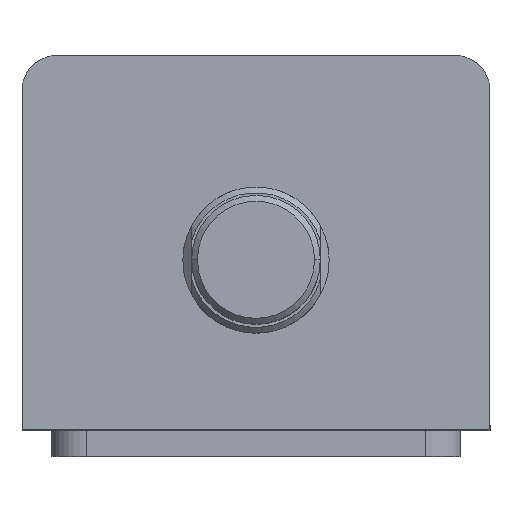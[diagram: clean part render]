
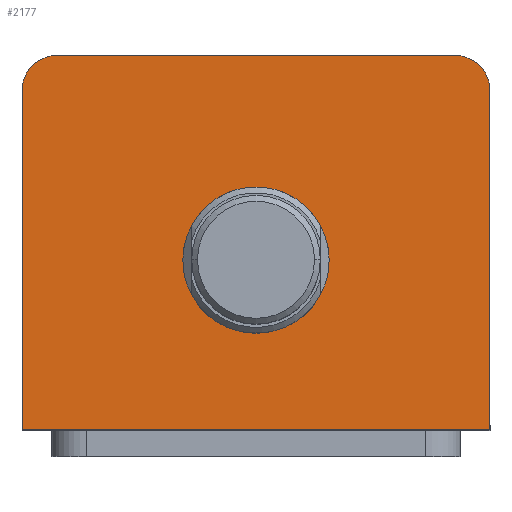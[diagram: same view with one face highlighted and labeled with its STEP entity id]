
A CAD part, top view. The second image highlights one B-rep face of the part: STEP entity #2177.
In plain terms, the highlighted planar face has unit normal (0, 0, 1).
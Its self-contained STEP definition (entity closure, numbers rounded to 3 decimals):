
#19 = DIRECTION ( 'NONE',  ( 1., 0., 0. ) ) ;
#23 = CARTESIAN_POINT ( 'NONE',  ( -40., -32., 110. ) ) ;
#788 = EDGE_LOOP ( 'NONE', ( #1703, #1702, #1701, #1700, #1699, #1698 ) ) ;
#809 = EDGE_LOOP ( 'NONE', ( #1705, #1704 ) ) ;
#1106 = EDGE_CURVE ( 'NONE', #1547, #1551, #1792, .T. ) ;
#1128 = EDGE_CURVE ( 'NONE', #1611, #1563, #1832, .T. ) ;
#1136 = EDGE_CURVE ( 'NONE', #1563, #1547, #1841, .T. ) ;
#1145 = EDGE_CURVE ( 'NONE', #1551, #1567, #1852, .T. ) ;
#1149 = EDGE_CURVE ( 'NONE', #1567, #1612, #1858, .T. ) ;
#1162 = EDGE_CURVE ( 'NONE', #1531, #1598, #1884, .T. ) ;
#1312 = CARTESIAN_POINT ( 'NONE',  ( 34., 26., 110. ) ) ;
#1351 = DIRECTION ( 'NONE',  ( 0., 1., 0. ) ) ;
#1352 = CARTESIAN_POINT ( 'NONE',  ( 40., 32., 110. ) ) ;
#1406 = DIRECTION ( 'NONE',  ( -1., 0., 0. ) ) ;
#1408 = CARTESIAN_POINT ( 'NONE',  ( -40., 32., 110. ) ) ;
#1531 = VERTEX_POINT ( 'NONE', #3309 ) ;
#1547 = VERTEX_POINT ( 'NONE', #3276 ) ;
#1551 = VERTEX_POINT ( 'NONE', #3269 ) ;
#1563 = VERTEX_POINT ( 'NONE', #3234 ) ;
#1567 = VERTEX_POINT ( 'NONE', #3219 ) ;
#1598 = VERTEX_POINT ( 'NONE', #3140 ) ;
#1611 = VERTEX_POINT ( 'NONE', #3106 ) ;
#1612 = VERTEX_POINT ( 'NONE', #3101 ) ;
#1698 = ORIENTED_EDGE ( 'NONE', *, *, #1136, .T. ) ;
#1699 = ORIENTED_EDGE ( 'NONE', *, *, #1128, .T. ) ;
#1700 = ORIENTED_EDGE ( 'NONE', *, *, #3041, .T. ) ;
#1701 = ORIENTED_EDGE ( 'NONE', *, *, #1149, .T. ) ;
#1702 = ORIENTED_EDGE ( 'NONE', *, *, #1145, .T. ) ;
#1703 = ORIENTED_EDGE ( 'NONE', *, *, #1106, .T. ) ;
#1704 = ORIENTED_EDGE ( 'NONE', *, *, #3517, .F. ) ;
#1705 = ORIENTED_EDGE ( 'NONE', *, *, #1162, .F. ) ;
#1792 = LINE ( 'NONE', #1408, #1795 ) ;
#1795 = VECTOR ( 'NONE', #1406, 1000. ) ;
#1832 = LINE ( 'NONE', #1352, #1835 ) ;
#1835 = VECTOR ( 'NONE', #1351, 1000. ) ;
#1841 = CIRCLE ( 'NONE', #3771, 6. ) ;
#1852 = CIRCLE ( 'NONE', #3765, 6. ) ;
#1858 = LINE ( 'NONE', #3651, #1861 ) ;
#1861 = VECTOR ( 'NONE', #3650, 1000. ) ;
#1884 = CIRCLE ( 'NONE', #3762, 12.5 ) ;
#2177 = ADVANCED_FACE ( 'NONE', ( #2448, #2456 ), #3008, .T. ) ;
#2245 = AXIS2_PLACEMENT_3D ( 'NONE', #3486, #3485, #3484 ) ;
#2448 = FACE_BOUND ( 'NONE', #809, .T. ) ;
#2456 = FACE_OUTER_BOUND ( 'NONE', #788, .T. ) ;
#2585 = LINE ( 'NONE', #23, #2588 ) ;
#2588 = VECTOR ( 'NONE', #19, 1000. ) ;
#2612 = CIRCLE ( 'NONE', #2245, 12.5 ) ;
#2926 = CARTESIAN_POINT ( 'NONE',  ( 0., 0., 110. ) ) ;
#3002 = DIRECTION ( 'NONE',  ( 1., 0., 0. ) ) ;
#3003 = DIRECTION ( 'NONE',  ( 0., 0., 1. ) ) ;
#3008 = PLANE ( 'NONE',  #3777 ) ;
#3041 = EDGE_CURVE ( 'NONE', #1612, #1611, #2585, .T. ) ;
#3101 = CARTESIAN_POINT ( 'NONE',  ( -40., -32., 110. ) ) ;
#3106 = CARTESIAN_POINT ( 'NONE',  ( 40., -32., 110. ) ) ;
#3140 = CARTESIAN_POINT ( 'NONE',  ( -12.5, -3., 110. ) ) ;
#3219 = CARTESIAN_POINT ( 'NONE',  ( -40., 26., 110. ) ) ;
#3234 = CARTESIAN_POINT ( 'NONE',  ( 40., 26., 110. ) ) ;
#3269 = CARTESIAN_POINT ( 'NONE',  ( -34., 32., 110. ) ) ;
#3276 = CARTESIAN_POINT ( 'NONE',  ( 34., 32., 110. ) ) ;
#3309 = CARTESIAN_POINT ( 'NONE',  ( 12.5, -3., 110. ) ) ;
#3484 = DIRECTION ( 'NONE',  ( 1., 0., 0. ) ) ;
#3485 = DIRECTION ( 'NONE',  ( 0., 0., 1. ) ) ;
#3486 = CARTESIAN_POINT ( 'NONE',  ( 0., -3., 110. ) ) ;
#3517 = EDGE_CURVE ( 'NONE', #1598, #1531, #2612, .T. ) ;
#3554 = DIRECTION ( 'NONE',  ( 1., 0., 0. ) ) ;
#3562 = CARTESIAN_POINT ( 'NONE',  ( 0., -3., 110. ) ) ;
#3569 = DIRECTION ( 'NONE',  ( 0., 0., 1. ) ) ;
#3650 = DIRECTION ( 'NONE',  ( 0., -1., 0. ) ) ;
#3651 = CARTESIAN_POINT ( 'NONE',  ( -40., 32., 110. ) ) ;
#3682 = DIRECTION ( 'NONE',  ( 0., 0., 1. ) ) ;
#3684 = CARTESIAN_POINT ( 'NONE',  ( -34., 26., 110. ) ) ;
#3724 = DIRECTION ( 'NONE',  ( 1., 0., 0. ) ) ;
#3753 = DIRECTION ( 'NONE',  ( 0., 0., 1. ) ) ;
#3755 = DIRECTION ( 'NONE',  ( 1., 0., 0. ) ) ;
#3762 = AXIS2_PLACEMENT_3D ( 'NONE', #3562, #3569, #3554 ) ;
#3765 = AXIS2_PLACEMENT_3D ( 'NONE', #3684, #3682, #3724 ) ;
#3771 = AXIS2_PLACEMENT_3D ( 'NONE', #1312, #3753, #3755 ) ;
#3777 = AXIS2_PLACEMENT_3D ( 'NONE', #2926, #3003, #3002 ) ;
